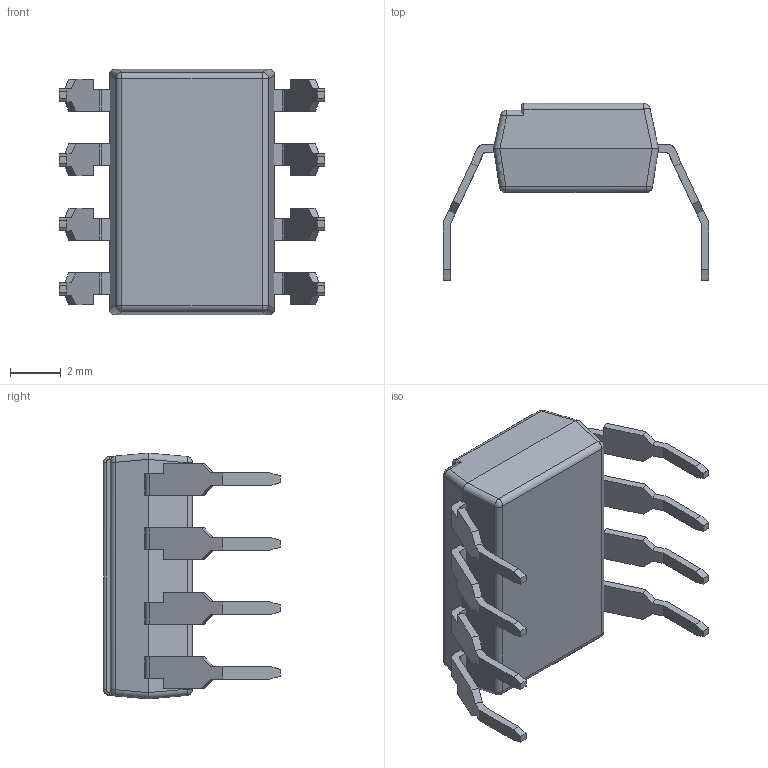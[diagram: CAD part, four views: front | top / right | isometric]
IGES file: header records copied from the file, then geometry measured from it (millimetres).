
Global section: file name: 8P-M; native system: Autodesk Inventor 2016; preprocessor: unknown; author: ElvinLai; date: 20181011.144111; units: millimetre
Bounding box: 10.46 x 6.97 x 9.68 mm (x, y, z)
Surface area: 326.5 mm2 (no closed solid volume)
Topology: 0 solids, 0 shells, 195 faces, 1127 edges, 1125 vertices
Faces by surface type: bspline 148, revolution 47
